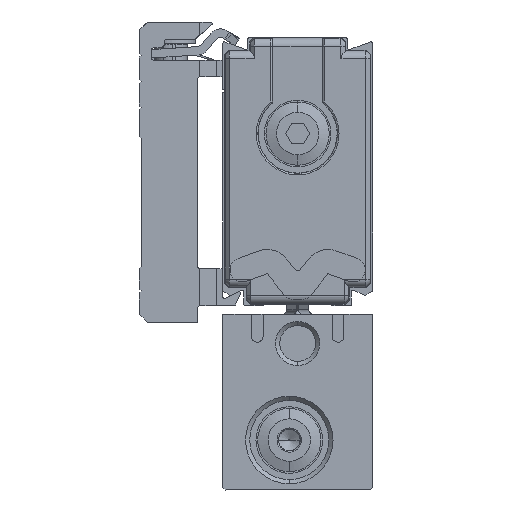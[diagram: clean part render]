
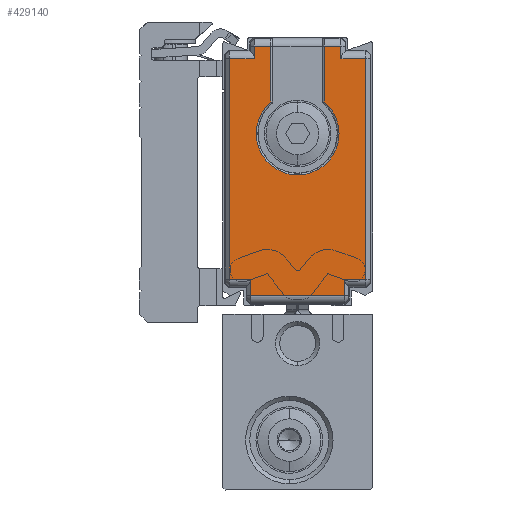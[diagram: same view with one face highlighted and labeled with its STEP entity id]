
A CAD part, left-side view. The second image highlights one B-rep face of the part: STEP entity #429140.
In plain terms, the highlighted planar face has unit normal (-1, 0, 0) as drawn and (0, 0, -1) by its records, which use the part's own axes.
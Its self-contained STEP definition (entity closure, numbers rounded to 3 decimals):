
#427050=CARTESIAN_POINT('',(29.865,18.802,-494.5));
#427060=VERTEX_POINT('',#427050);
#427510=CARTESIAN_POINT('',(3.435,18.802,-494.5));
#427520=VERTEX_POINT('',#427510);
#427570=CARTESIAN_POINT('',(3.435,18.802,-494.5));
#427580=CARTESIAN_POINT('',(7.84,18.802,-494.5));
#427590=CARTESIAN_POINT('',(12.245,18.802,-494.5));
#427600=CARTESIAN_POINT('',(21.055,18.802,-494.5));
#427610=CARTESIAN_POINT('',(25.46,18.802,-494.5));
#427620=CARTESIAN_POINT('',(29.865,18.802,-494.5));
#427630=B_SPLINE_CURVE_WITH_KNOTS('',3,(#427570,#427580,#427590,#427600,
#427610,#427620),.UNSPECIFIED.,.F.,.F.,(4,2,4),(24.334,
37.549,50.764),.UNSPECIFIED.);
#427640=EDGE_CURVE('',#427520,#427060,#427630,.T.);
#427760=CARTESIAN_POINT('',(16.65,27.,-494.5));
#427770=DIRECTION('',(0.,0.,1.));
#427780=DIRECTION('',(0.,1.,0.));
#427790=AXIS2_PLACEMENT_3D('',#427760,#427770,#427780);
#427800=PLANE('',#427790);
#427810=CARTESIAN_POINT('',(20.9,27.,-494.5));
#427820=DIRECTION('',(0.,0.,-1.));
#427830=DIRECTION('',(0.,1.,0.));
#427840=AXIS2_PLACEMENT_3D('',#427810,#427820,#427830);
#427850=CIRCLE('',#427840,4.974);
#427860=CARTESIAN_POINT('',(24.688,23.776,-494.5));
#427870=VERTEX_POINT('',#427860);
#427880=CARTESIAN_POINT('',(24.688,30.224,-494.5));
#427890=VERTEX_POINT('',#427880);
#427900=EDGE_CURVE('',#427870,#427890,#427850,.T.);
#427910=ORIENTED_EDGE('',*,*,#427900,.F.);
#427920=CARTESIAN_POINT('',(0.15,30.224,-494.5));
#427930=DIRECTION('',(1.,0.,0.));
#427940=VECTOR('',#427930,1.);
#427950=LINE('',#427920,#427940);
#427960=CARTESIAN_POINT('',(31.365,30.224,-494.5));
#427970=VERTEX_POINT('',#427960);
#427980=EDGE_CURVE('',#427890,#427970,#427950,.T.);
#427990=ORIENTED_EDGE('',*,*,#427980,.F.);
#428000=CARTESIAN_POINT('',(31.365,35.75,-494.5));
#428010=DIRECTION('',(0.,-1.,0.));
#428020=VECTOR('',#428010,1.);
#428030=LINE('',#428000,#428020);
#428040=CARTESIAN_POINT('',(31.365,32.198,-494.5));
#428050=VERTEX_POINT('',#428040);
#428060=EDGE_CURVE('',#428050,#427970,#428030,.T.);
#428070=ORIENTED_EDGE('',*,*,#428060,.T.);
#428080=CARTESIAN_POINT('',(29.365,32.198,-494.5));
#428090=CARTESIAN_POINT('',(29.782,32.198,-494.5));
#428100=CARTESIAN_POINT('',(30.198,32.198,-494.5));
#428110=CARTESIAN_POINT('',(30.865,32.198,-494.5));
#428120=CARTESIAN_POINT('',(31.115,32.198,-494.5));
#428130=CARTESIAN_POINT('',(31.365,32.198,-494.5));
#428140=B_SPLINE_CURVE_WITH_KNOTS('',3,(#428080,#428090,#428100,#428110,
#428120,#428130),.UNSPECIFIED.,.F.,.F.,(4,2,4),(37.587,
38.837,39.587),.UNSPECIFIED.);
#428150=CARTESIAN_POINT('',(29.865,32.198,-494.5));
#428160=VERTEX_POINT('',#428150);
#428170=EDGE_CURVE('',#428160,#428050,#428140,.T.);
#428180=ORIENTED_EDGE('',*,*,#428170,.T.);
#428190=CARTESIAN_POINT('',(29.865,35.75,-494.5));
#428200=DIRECTION('',(0.,1.,0.));
#428210=VECTOR('',#428200,1.);
#428220=LINE('',#428190,#428210);
#428230=CARTESIAN_POINT('',(29.865,35.198,-494.5));
#428240=VERTEX_POINT('',#428230);
#428250=EDGE_CURVE('',#428160,#428240,#428220,.T.);
#428260=ORIENTED_EDGE('',*,*,#428250,.F.);
#428270=CARTESIAN_POINT('',(3.435,35.198,-494.5));
#428280=CARTESIAN_POINT('',(7.84,35.198,-494.5));
#428290=CARTESIAN_POINT('',(12.245,35.198,-494.5));
#428300=CARTESIAN_POINT('',(21.055,35.198,-494.5));
#428310=CARTESIAN_POINT('',(25.46,35.198,-494.5));
#428320=CARTESIAN_POINT('',(29.865,35.198,-494.5));
#428330=B_SPLINE_CURVE_WITH_KNOTS('',3,(#428270,#428280,#428290,#428300,
#428310,#428320),.UNSPECIFIED.,.F.,.F.,(4,2,4),(24.308,
37.523,50.738),.UNSPECIFIED.);
#428340=CARTESIAN_POINT('',(3.435,35.198,-494.5));
#428350=VERTEX_POINT('',#428340);
#428360=EDGE_CURVE('',#428350,#428240,#428330,.T.);
#428370=ORIENTED_EDGE('',*,*,#428360,.T.);
#428380=CARTESIAN_POINT('',(3.435,35.75,-494.5));
#428390=DIRECTION('',(0.,1.,0.));
#428400=VECTOR('',#428390,1.);
#428410=LINE('',#428380,#428400);
#428420=CARTESIAN_POINT('',(3.435,32.648,-494.5));
#428430=VERTEX_POINT('',#428420);
#428440=EDGE_CURVE('',#428430,#428350,#428410,.T.);
#428450=ORIENTED_EDGE('',*,*,#428440,.T.);
#428460=CARTESIAN_POINT('',(3.935,32.648,-494.5));
#428470=CARTESIAN_POINT('',(3.435,32.648,-494.5));
#428480=CARTESIAN_POINT('',(2.935,32.648,-494.5));
#428490=CARTESIAN_POINT('',(2.102,32.648,-494.5));
#428500=CARTESIAN_POINT('',(1.768,32.648,-494.5));
#428510=CARTESIAN_POINT('',(1.435,32.648,-494.5));
#428520=B_SPLINE_CURVE_WITH_KNOTS('',3,(#428460,#428470,#428480,#428490,
#428500,#428510),.UNSPECIFIED.,.F.,.F.,(4,2,4),(37.084,
38.584,39.584),.UNSPECIFIED.);
#428530=CARTESIAN_POINT('',(1.435,32.648,-494.5));
#428540=VERTEX_POINT('',#428530);
#428550=EDGE_CURVE('',#428430,#428540,#428520,.T.);
#428560=ORIENTED_EDGE('',*,*,#428550,.F.);
#428570=CARTESIAN_POINT('',(1.435,35.75,-494.5));
#428580=DIRECTION('',(0.,1.,0.));
#428590=VECTOR('',#428580,1.);
#428600=LINE('',#428570,#428590);
#428610=CARTESIAN_POINT('',(1.435,21.352,-494.5));
#428620=VERTEX_POINT('',#428610);
#428630=EDGE_CURVE('',#428620,#428540,#428600,.T.);
#428640=ORIENTED_EDGE('',*,*,#428630,.T.);
#428650=CARTESIAN_POINT('',(3.935,21.352,-494.5));
#428660=CARTESIAN_POINT('',(3.435,21.352,-494.5));
#428670=CARTESIAN_POINT('',(2.935,21.352,-494.5));
#428680=CARTESIAN_POINT('',(2.102,21.352,-494.5));
#428690=CARTESIAN_POINT('',(1.768,21.352,-494.5));
#428700=CARTESIAN_POINT('',(1.435,21.352,-494.5));
#428710=B_SPLINE_CURVE_WITH_KNOTS('',3,(#428650,#428660,#428670,#428680,
#428690,#428700),.UNSPECIFIED.,.F.,.F.,(4,2,4),(37.084,
38.584,39.584),.UNSPECIFIED.);
#428720=CARTESIAN_POINT('',(3.435,21.352,-494.5));
#428730=VERTEX_POINT('',#428720);
#428740=EDGE_CURVE('',#428730,#428620,#428710,.T.);
#428750=ORIENTED_EDGE('',*,*,#428740,.T.);
#428760=CARTESIAN_POINT('',(3.435,35.75,-494.5));
#428770=DIRECTION('',(0.,-1.,0.));
#428780=VECTOR('',#428770,1.);
#428790=LINE('',#428760,#428780);
#428800=EDGE_CURVE('',#428730,#427520,#428790,.T.);
#428810=ORIENTED_EDGE('',*,*,#428800,.F.);
#428820=ORIENTED_EDGE('',*,*,#427640,.F.);
#428830=CARTESIAN_POINT('',(29.865,35.75,-494.5));
#428840=DIRECTION('',(0.,-1.,0.));
#428850=VECTOR('',#428840,1.);
#428860=LINE('',#428830,#428850);
#428870=CARTESIAN_POINT('',(29.865,21.802,-494.5));
#428880=VERTEX_POINT('',#428870);
#428890=EDGE_CURVE('',#428880,#427060,#428860,.T.);
#428900=ORIENTED_EDGE('',*,*,#428890,.T.);
#428910=CARTESIAN_POINT('',(29.365,21.802,-494.5));
#428920=CARTESIAN_POINT('',(29.782,21.802,-494.5));
#428930=CARTESIAN_POINT('',(30.198,21.802,-494.5));
#428940=CARTESIAN_POINT('',(30.865,21.802,-494.5));
#428950=CARTESIAN_POINT('',(31.115,21.802,-494.5));
#428960=CARTESIAN_POINT('',(31.365,21.802,-494.5));
#428970=B_SPLINE_CURVE_WITH_KNOTS('',3,(#428910,#428920,#428930,#428940,
#428950,#428960),.UNSPECIFIED.,.F.,.F.,(4,2,4),(37.587,
38.837,39.587),.UNSPECIFIED.);
#428980=CARTESIAN_POINT('',(31.365,21.802,-494.5));
#428990=VERTEX_POINT('',#428980);
#429000=EDGE_CURVE('',#428880,#428990,#428970,.T.);
#429010=ORIENTED_EDGE('',*,*,#429000,.F.);
#429020=CARTESIAN_POINT('',(31.365,23.776,-494.5));
#429030=VERTEX_POINT('',#429020);
#429040=EDGE_CURVE('',#429030,#428990,#428030,.T.);
#429050=ORIENTED_EDGE('',*,*,#429040,.T.);
#429060=CARTESIAN_POINT('',(0.15,23.776,-494.5));
#429070=DIRECTION('',(-1.,0.,0.));
#429080=VECTOR('',#429070,1.);
#429090=LINE('',#429060,#429080);
#429100=EDGE_CURVE('',#429030,#427870,#429090,.T.);
#429110=ORIENTED_EDGE('',*,*,#429100,.F.);
#429120=EDGE_LOOP('',(#429110,#429050,#429010,#428900,#428820,#428810,
#428750,#428640,#428560,#428450,#428370,#428260,#428180,#428070,#427990,
#427910));
#429130=FACE_OUTER_BOUND('',#429120,.T.);
#429140=ADVANCED_FACE('',(#429130),#427800,.F.);
